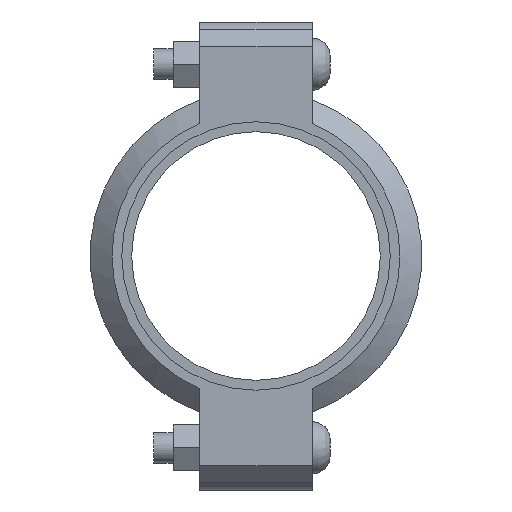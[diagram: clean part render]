
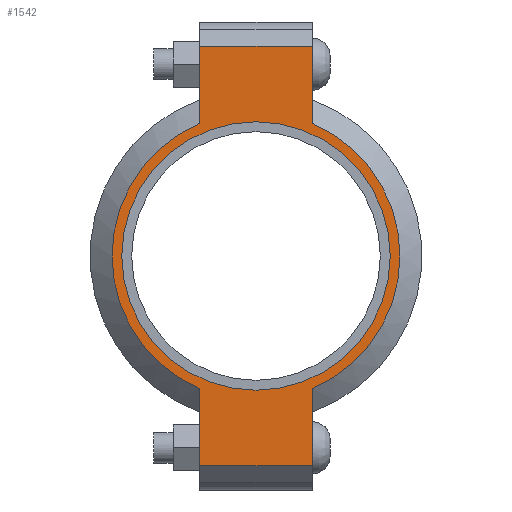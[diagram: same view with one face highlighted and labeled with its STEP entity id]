
A CAD part, left-side view. The second image highlights one B-rep face of the part: STEP entity #1542.
In plain terms, the highlighted planar face has unit normal (-1, 0, 0) as drawn and (0, 0, 1) by its records, which use the part's own axes.
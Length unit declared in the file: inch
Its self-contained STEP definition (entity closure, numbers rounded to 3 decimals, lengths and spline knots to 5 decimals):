
#166=LINE('',#2691,#259);
#174=LINE('',#2727,#267);
#181=LINE('',#2748,#274);
#190=LINE('',#2780,#283);
#191=LINE('',#2784,#284);
#192=LINE('',#2786,#285);
#259=VECTOR('',#2195,0.3937);
#267=VECTOR('',#2211,0.3937);
#274=VECTOR('',#2230,0.3937);
#283=VECTOR('',#2255,0.3937);
#284=VECTOR('',#2260,0.3937);
#285=VECTOR('',#2261,0.3937);
#341=FACE_BOUND('',#519,.T.);
#413=FACE_OUTER_BOUND('',#518,.T.);
#518=EDGE_LOOP('',(#1283,#1284,#1285,#1286,#1287,#1288,#1289,#1290));
#519=EDGE_LOOP('',(#1291));
#591=CIRCLE('',#1761,2.75);
#617=CIRCLE('',#1820,2.95);
#618=CIRCLE('',#1821,2.95);
#683=VERTEX_POINT('',#2507);
#726=VERTEX_POINT('',#2688);
#727=VERTEX_POINT('',#2690);
#738=VERTEX_POINT('',#2722);
#739=VERTEX_POINT('',#2726);
#746=VERTEX_POINT('',#2745);
#747=VERTEX_POINT('',#2747);
#757=VERTEX_POINT('',#2783);
#758=VERTEX_POINT('',#2785);
#839=EDGE_CURVE('',#683,#683,#591,.T.);
#900=EDGE_CURVE('',#727,#726,#166,.T.);
#914=EDGE_CURVE('',#739,#738,#174,.T.);
#924=EDGE_CURVE('',#747,#746,#181,.T.);
#939=EDGE_CURVE('',#739,#726,#190,.T.);
#940=EDGE_CURVE('',#738,#747,#617,.T.);
#941=EDGE_CURVE('',#757,#746,#191,.T.);
#942=EDGE_CURVE('',#757,#758,#192,.T.);
#943=EDGE_CURVE('',#758,#727,#618,.T.);
#1283=ORIENTED_EDGE('',*,*,#939,.F.);
#1284=ORIENTED_EDGE('',*,*,#914,.T.);
#1285=ORIENTED_EDGE('',*,*,#940,.T.);
#1286=ORIENTED_EDGE('',*,*,#924,.T.);
#1287=ORIENTED_EDGE('',*,*,#941,.F.);
#1288=ORIENTED_EDGE('',*,*,#942,.T.);
#1289=ORIENTED_EDGE('',*,*,#943,.T.);
#1290=ORIENTED_EDGE('',*,*,#900,.T.);
#1291=ORIENTED_EDGE('',*,*,#839,.T.);
#1384=PLANE('',#1819);
#1542=ADVANCED_FACE('',(#413,#341),#1384,.T.);
#1761=AXIS2_PLACEMENT_3D('',#2509,#2071,#2072);
#1819=AXIS2_PLACEMENT_3D('',#2781,#2256,#2257);
#1820=AXIS2_PLACEMENT_3D('',#2782,#2258,#2259);
#1821=AXIS2_PLACEMENT_3D('',#2787,#2262,#2263);
#2071=DIRECTION('center_axis',(0.,0.,-1.));
#2072=DIRECTION('ref_axis',(-1.,0.,0.));
#2195=DIRECTION('',(-1.,0.,0.));
#2211=DIRECTION('',(1.,0.,0.));
#2230=DIRECTION('',(1.,0.,0.));
#2255=DIRECTION('',(0.,1.,0.));
#2256=DIRECTION('center_axis',(0.,0.,1.));
#2257=DIRECTION('ref_axis',(1.,0.,0.));
#2258=DIRECTION('center_axis',(0.,0.,1.));
#2259=DIRECTION('ref_axis',(-1.,0.,0.));
#2260=DIRECTION('',(0.,-1.,0.));
#2261=DIRECTION('',(-1.,0.,0.));
#2262=DIRECTION('center_axis',(0.,0.,1.));
#2263=DIRECTION('ref_axis',(-1.,0.,0.));
#2507=CARTESIAN_POINT('',(2.75,0.,1.065));
#2509=CARTESIAN_POINT('Origin',(0.,0.,1.065));
#2688=CARTESIAN_POINT('',(-4.295,1.15,1.065));
#2690=CARTESIAN_POINT('',(-2.71662,1.15,1.065));
#2691=CARTESIAN_POINT('',(-4.795,1.15,1.065));
#2722=CARTESIAN_POINT('',(-2.71662,-1.15,1.065));
#2726=CARTESIAN_POINT('',(-4.295,-1.15,1.065));
#2727=CARTESIAN_POINT('',(4.795,-1.15,1.065));
#2745=CARTESIAN_POINT('',(4.295,-1.15,1.065));
#2747=CARTESIAN_POINT('',(2.71662,-1.15,1.065));
#2748=CARTESIAN_POINT('',(4.795,-1.15,1.065));
#2780=CARTESIAN_POINT('',(-4.295,0.575,1.065));
#2781=CARTESIAN_POINT('Origin',(0.,0.,1.065));
#2782=CARTESIAN_POINT('Origin',(0.,0.,1.065));
#2783=CARTESIAN_POINT('',(4.295,1.15,1.065));
#2784=CARTESIAN_POINT('',(4.295,-0.575,1.065));
#2785=CARTESIAN_POINT('',(2.71662,1.15,1.065));
#2786=CARTESIAN_POINT('',(-4.795,1.15,1.065));
#2787=CARTESIAN_POINT('Origin',(0.,0.,1.065));
